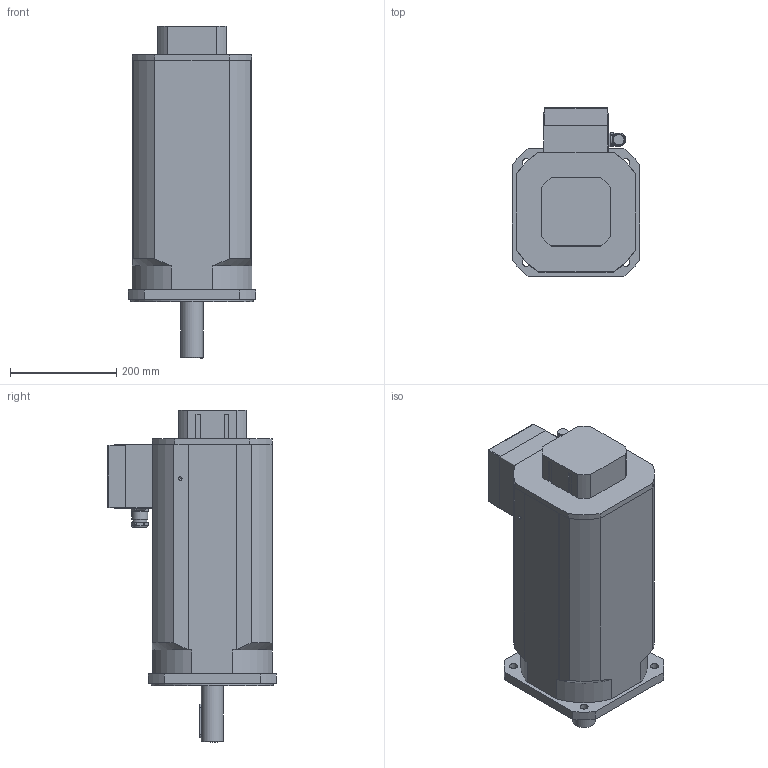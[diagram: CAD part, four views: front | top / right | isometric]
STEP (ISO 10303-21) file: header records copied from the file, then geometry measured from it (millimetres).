
FILE_DESCRIPTION(/* description */ ('Alibre Inc.'),/* implementation_level */ '2;1');
FILE_NAME(/* name */ 'export0',/* time_stamp */ '2011-11-01T10:26:40+01:00',/* author */ (''),/* organization */ (''),/* preprocessor_version */ 'ST-DEVELOPER v12',/* originating_system */ 'Alibre',/* authorisation */ '');
FILE_SCHEMA (('CONFIG_CONTROL_DESIGN'));
Length unit declared in the file: millimetre
Products named in the file (9): ID_1
Bounding box: 240 x 316 x 624 mm (x, y, z)
Volume: 24006330.9 mm3; surface area: 753648.7 mm2
Topology: 8 solids, 8 shells, 275 faces, 708 edges, 460 vertices
Faces by surface type: plane 130, cylinder 111, torus 15, cone 14, bspline 5
Full cylindrical faces by diameter (mm): 2.7 x4, 6.647 x3, 10.106 x1, 15 x5, 20 x6, 22 x2, 25 x2, 26.75 x1, 30 x2, 42 x1, 45 x1, 230 x1
Entity records: 10347 total; most frequent: CARTESIAN_POINT 3067, ORIENTED_EDGE 1298, DIRECTION 1251, EDGE_CURVE 649, AXIS2_PLACEMENT_3D 539, VERTEX_POINT 447, EDGE_LOOP 350, FACE_BOUND 350
